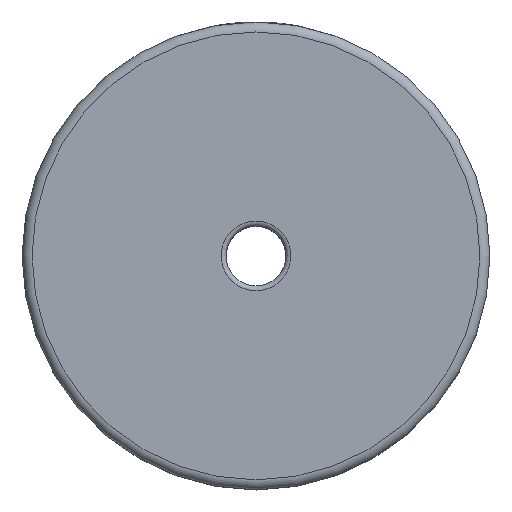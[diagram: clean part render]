
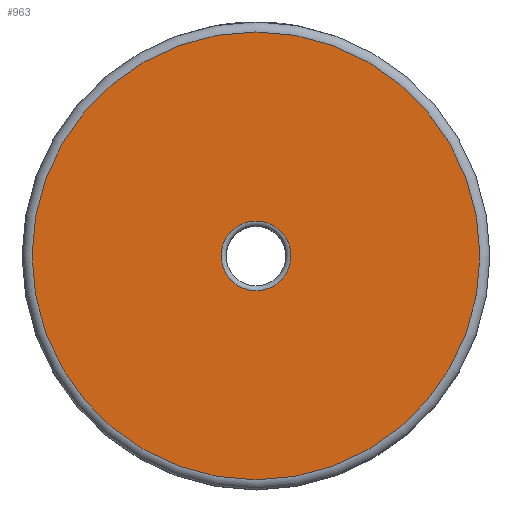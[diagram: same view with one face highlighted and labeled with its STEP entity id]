
A CAD part, top view. The second image highlights one B-rep face of the part: STEP entity #963.
In plain terms, the highlighted planar face has unit normal (0, 0, 1).
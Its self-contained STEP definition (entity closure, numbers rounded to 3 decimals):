
#14=FACE_BOUND('',#311,.T.);
#71=PLANE('',#1061);
#254=FACE_OUTER_BOUND('',#310,.T.);
#310=EDGE_LOOP('',(#764));
#311=EDGE_LOOP('',(#765));
#406=CIRCLE('',#1057,3.5);
#410=CIRCLE('',#1062,22.5);
#473=VERTEX_POINT('',#1946);
#476=VERTEX_POINT('',#1954);
#582=EDGE_CURVE('',#473,#473,#406,.T.);
#586=EDGE_CURVE('',#476,#476,#410,.T.);
#764=ORIENTED_EDGE('',*,*,#586,.F.);
#765=ORIENTED_EDGE('',*,*,#582,.F.);
#963=ADVANCED_FACE('',(#254,#14),#71,.T.);
#1057=AXIS2_PLACEMENT_3D('',#1947,#1206,#1207);
#1061=AXIS2_PLACEMENT_3D('',#1953,#1214,#1215);
#1062=AXIS2_PLACEMENT_3D('',#1955,#1216,#1217);
#1206=DIRECTION('center_axis',(0.,0.,1.));
#1207=DIRECTION('ref_axis',(0.,1.,0.));
#1214=DIRECTION('center_axis',(0.,0.,1.));
#1215=DIRECTION('ref_axis',(1.,0.,0.));
#1216=DIRECTION('center_axis',(0.,0.,-1.));
#1217=DIRECTION('ref_axis',(0.,1.,0.));
#1946=CARTESIAN_POINT('',(3.5,0.,0.));
#1947=CARTESIAN_POINT('Origin',(0.,0.,0.));
#1953=CARTESIAN_POINT('Origin',(0.,-23.5,0.));
#1954=CARTESIAN_POINT('',(22.5,0.,0.));
#1955=CARTESIAN_POINT('Origin',(0.,0.,0.));
